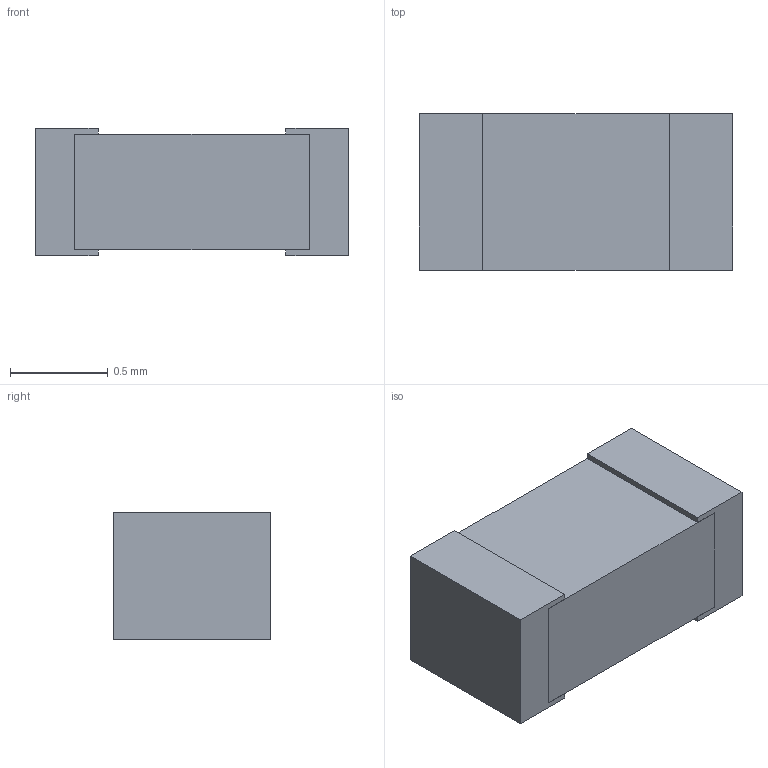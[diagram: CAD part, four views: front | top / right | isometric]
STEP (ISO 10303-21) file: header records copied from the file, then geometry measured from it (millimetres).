
FILE_DESCRIPTION(('HOOPS Exchange Step'),'2;1');
FILE_NAME('C:\Users\knoguchi\Desktop\STP\Y1.stp','2021-07-20T10:12:43+09:00',('knoguchi'),('Unknown organisation'),'HOOPS Exchange 2021.1','HOOPS Exchange','Unknown authorisation');
FILE_SCHEMA( ('AP203_CONFIGURATION_CONTROLLED_3D_DESIGN_OF_MECHANICAL_PARTS_AND_ASSEMBLIES_MIM_LF') );
Length unit declared in the file: millimetre
Products named in the file (1): Export
Bounding box: 1.6 x 0.8 x 0.65 mm (x, y, z)
Volume: 0.8 mm3; surface area: 8.3 mm2
Topology: 3 solids, 3 shells, 26 faces, 60 edges, 40 vertices
Faces by surface type: plane 26
Entity records: 679 total; most frequent: CARTESIAN_POINT 187, ORIENTED_EDGE 120, B_SPLINE_CURVE_WITH_KNOTS 60, EDGE_CURVE 60, DIRECTION 54, VERTEX_POINT 40, AXIS2_PLACEMENT_3D 27, PLANE 26
